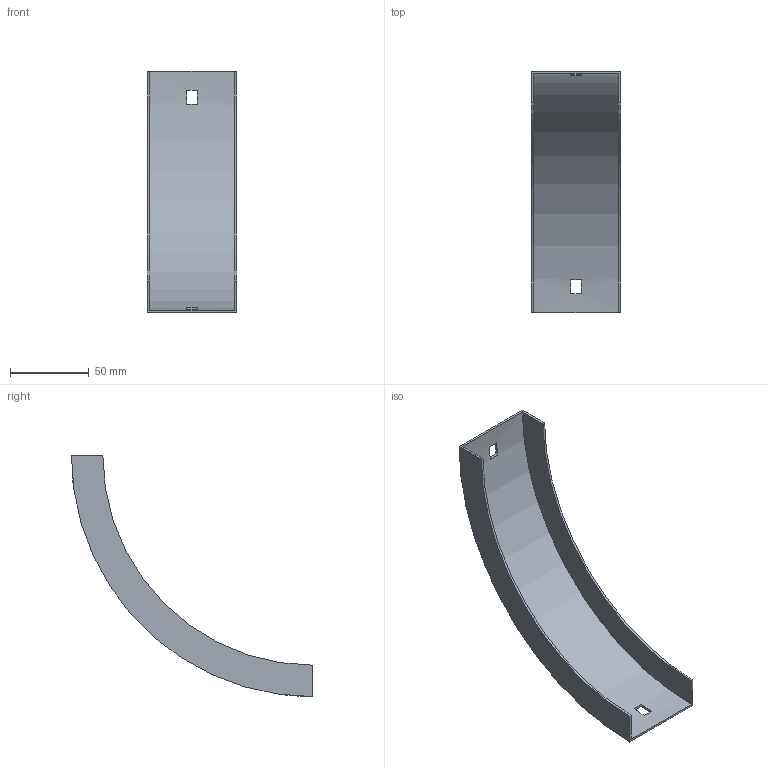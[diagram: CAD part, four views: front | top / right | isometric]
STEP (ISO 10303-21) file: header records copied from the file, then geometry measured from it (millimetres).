
FILE_DESCRIPTION (( 'STEP AP214' ), '1' );
FILE_NAME ('33N1B050.step', '2025-02-21T09:17:48', ( '' ), ( '' ), 'SwSTEP 2.0', 'SolidWorks 2023', '' );
FILE_SCHEMA (( 'AUTOMOTIVE_DESIGN' ));
Length unit declared in the file: millimetre
Products named in the file (1): 33N1B050
Bounding box: 57 x 153.5 x 153.5 mm (x, y, z)
Volume: 32783.1 mm3; surface area: 44719 mm2
Topology: 1 solids, 1 shells, 18 faces, 48 edges, 32 vertices
Faces by surface type: plane 14, cylinder 4
Entity records: 599 total; most frequent: DIRECTION 102, CARTESIAN_POINT 99, ORIENTED_EDGE 96, EDGE_CURVE 48, AXIS2_PLACEMENT_3D 35, LINE 32, VECTOR 32, VERTEX_POINT 32
